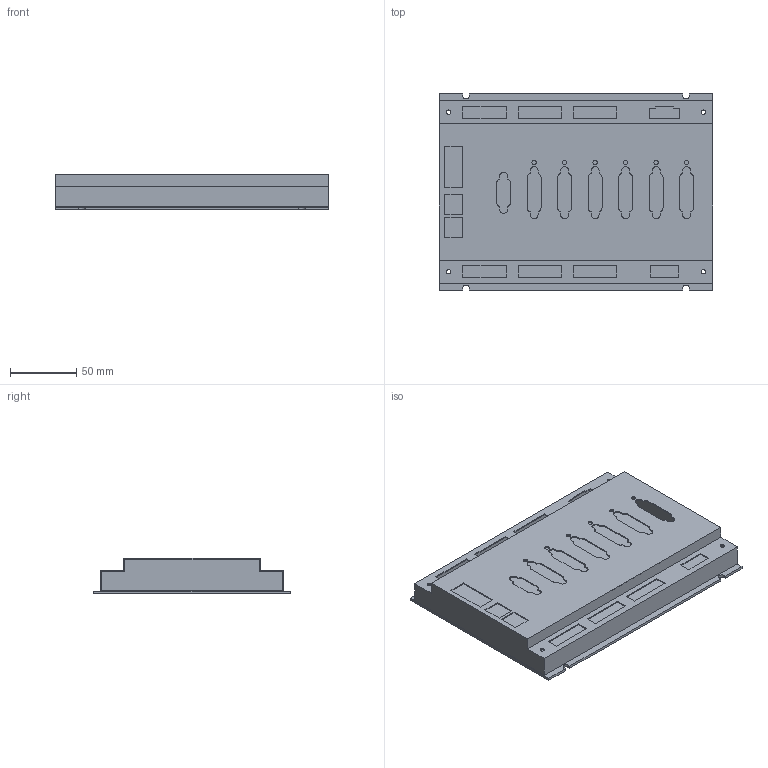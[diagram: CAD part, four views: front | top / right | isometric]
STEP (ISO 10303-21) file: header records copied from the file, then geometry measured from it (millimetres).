
FILE_DESCRIPTION (( 'STEP AP203' ), '1' );
FILE_NAME ('力为控制技术-3D模型-《EMC206B》.STEP', '2024-12-30T02:15:41', ( '' ), ( '' ), 'SwSTEP 2.0', 'SolidWorks 2020', '' );
FILE_SCHEMA (( 'CONFIG_CONTROL_DESIGN' ));
Length unit declared in the file: millimetre
Products named in the file (1): 力为控制技术-3D模型-《EMC206B》
Bounding box: 206 x 148 x 27 mm (x, y, z)
Volume: 91484.5 mm3; surface area: 141748.6 mm2
Topology: 2 solids, 2 shells, 215 faces, 630 edges, 420 vertices
Faces by surface type: plane 127, cylinder 88
Entity records: 7391 total; most frequent: CARTESIAN_POINT 1266, ORIENTED_EDGE 1260, DIRECTION 1238, EDGE_CURVE 630, LINE 454, VECTOR 454, VERTEX_POINT 420, AXIS2_PLACEMENT_3D 392
